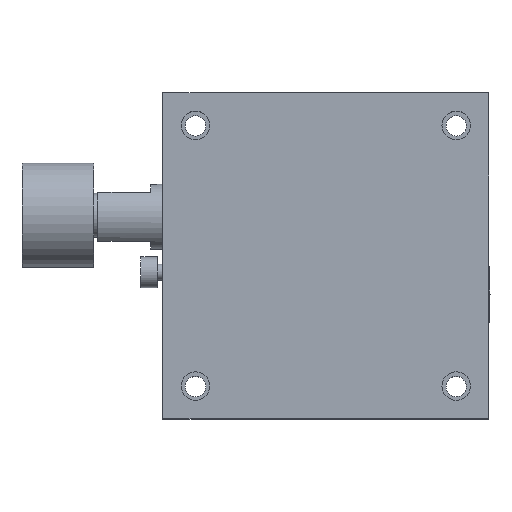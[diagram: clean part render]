
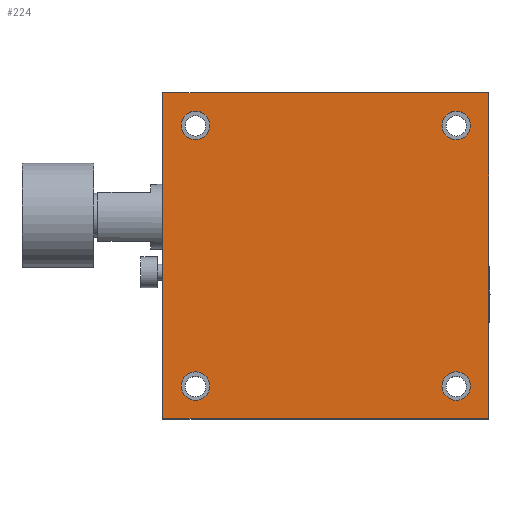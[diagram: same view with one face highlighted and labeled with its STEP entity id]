
A CAD part, top view. The second image highlights one B-rep face of the part: STEP entity #224.
In plain terms, the highlighted planar face has unit normal (0, 0, 1).
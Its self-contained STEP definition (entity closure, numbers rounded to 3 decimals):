
#224 = ADVANCED_FACE( '', ( #439, #440, #441, #442, #443 ), #444, .F. );
#439 = FACE_BOUND( '', #765, .T. );
#440 = FACE_BOUND( '', #766, .T. );
#441 = FACE_BOUND( '', #767, .T. );
#442 = FACE_BOUND( '', #768, .T. );
#443 = FACE_OUTER_BOUND( '', #769, .T. );
#444 = PLANE( '', #770 );
#765 = EDGE_LOOP( '', ( #1391 ) );
#766 = EDGE_LOOP( '', ( #1392 ) );
#767 = EDGE_LOOP( '', ( #1393 ) );
#768 = EDGE_LOOP( '', ( #1394 ) );
#769 = EDGE_LOOP( '', ( #1395, #1396, #1397, #1398 ) );
#770 = AXIS2_PLACEMENT_3D( '', #1399, #1400, #1401 );
#1391 = ORIENTED_EDGE( '', *, *, #2011, .T. );
#1392 = ORIENTED_EDGE( '', *, *, #2012, .T. );
#1393 = ORIENTED_EDGE( '', *, *, #2013, .T. );
#1394 = ORIENTED_EDGE( '', *, *, #2014, .T. );
#1395 = ORIENTED_EDGE( '', *, *, #1965, .F. );
#1396 = ORIENTED_EDGE( '', *, *, #2015, .F. );
#1397 = ORIENTED_EDGE( '', *, *, #2009, .F. );
#1398 = ORIENTED_EDGE( '', *, *, #2016, .F. );
#1399 = CARTESIAN_POINT( '', ( -20., 20., 41. ) );
#1400 = DIRECTION( '', ( 0., 0., -1. ) );
#1401 = DIRECTION( '', ( 0., 1., 0. ) );
#1965 = EDGE_CURVE( '', #2317, #2318, #2319, .T. );
#2009 = EDGE_CURVE( '', #2397, #2399, #2400, .T. );
#2011 = EDGE_CURVE( '', #2402, #2402, #2403, .T. );
#2012 = EDGE_CURVE( '', #2404, #2404, #2405, .T. );
#2013 = EDGE_CURVE( '', #2406, #2406, #2407, .T. );
#2014 = EDGE_CURVE( '', #2408, #2408, #2409, .T. );
#2015 = EDGE_CURVE( '', #2399, #2317, #2410, .T. );
#2016 = EDGE_CURVE( '', #2318, #2397, #2411, .T. );
#2317 = VERTEX_POINT( '', #2869 );
#2318 = VERTEX_POINT( '', #2870 );
#2319 = LINE( '', #2871, #2872 );
#2397 = VERTEX_POINT( '', #2988 );
#2399 = VERTEX_POINT( '', #2991 );
#2400 = LINE( '', #2992, #2993 );
#2402 = VERTEX_POINT( '', #2996 );
#2403 = CIRCLE( '', #2997, 1.75 );
#2404 = VERTEX_POINT( '', #2998 );
#2405 = CIRCLE( '', #2999, 1.75 );
#2406 = VERTEX_POINT( '', #3000 );
#2407 = CIRCLE( '', #3001, 1.75 );
#2408 = VERTEX_POINT( '', #3002 );
#2409 = CIRCLE( '', #3003, 1.75 );
#2410 = LINE( '', #3004, #3005 );
#2411 = LINE( '', #3006, #3007 );
#2869 = CARTESIAN_POINT( '', ( -20., -20., 41. ) );
#2870 = CARTESIAN_POINT( '', ( -20., 20., 41. ) );
#2871 = CARTESIAN_POINT( '', ( -20., -20., 41. ) );
#2872 = VECTOR( '', #3386, 1000. );
#2988 = CARTESIAN_POINT( '', ( 20., 20., 41. ) );
#2991 = CARTESIAN_POINT( '', ( 20., -20., 41. ) );
#2992 = CARTESIAN_POINT( '', ( 20., 20., 41. ) );
#2993 = VECTOR( '', #3438, 1000. );
#2996 = CARTESIAN_POINT( '', ( 14.25, 16., 41. ) );
#2997 = AXIS2_PLACEMENT_3D( '', #3440, #3441, #3442 );
#2998 = CARTESIAN_POINT( '', ( -17.75, 16., 41. ) );
#2999 = AXIS2_PLACEMENT_3D( '', #3443, #3444, #3445 );
#3000 = CARTESIAN_POINT( '', ( -17.75, -16., 41. ) );
#3001 = AXIS2_PLACEMENT_3D( '', #3446, #3447, #3448 );
#3002 = CARTESIAN_POINT( '', ( 14.25, -16., 41. ) );
#3003 = AXIS2_PLACEMENT_3D( '', #3449, #3450, #3451 );
#3004 = CARTESIAN_POINT( '', ( 20., -20., 41. ) );
#3005 = VECTOR( '', #3452, 1000. );
#3006 = CARTESIAN_POINT( '', ( -20., 20., 41. ) );
#3007 = VECTOR( '', #3453, 1000. );
#3386 = DIRECTION( '', ( 0., 1., 0. ) );
#3438 = DIRECTION( '', ( 0., -1., 0. ) );
#3440 = CARTESIAN_POINT( '', ( 16., 16., 41. ) );
#3441 = DIRECTION( '', ( 0., 0., -1. ) );
#3442 = DIRECTION( '', ( -1., 0., 0. ) );
#3443 = CARTESIAN_POINT( '', ( -16., 16., 41. ) );
#3444 = DIRECTION( '', ( 0., 0., -1. ) );
#3445 = DIRECTION( '', ( -1., 0., 0. ) );
#3446 = CARTESIAN_POINT( '', ( -16., -16., 41. ) );
#3447 = DIRECTION( '', ( 0., 0., -1. ) );
#3448 = DIRECTION( '', ( -1., 0., 0. ) );
#3449 = CARTESIAN_POINT( '', ( 16., -16., 41. ) );
#3450 = DIRECTION( '', ( 0., 0., -1. ) );
#3451 = DIRECTION( '', ( -1., 0., 0. ) );
#3452 = DIRECTION( '', ( -1., 0., 0. ) );
#3453 = DIRECTION( '', ( 1., 0., 0. ) );
